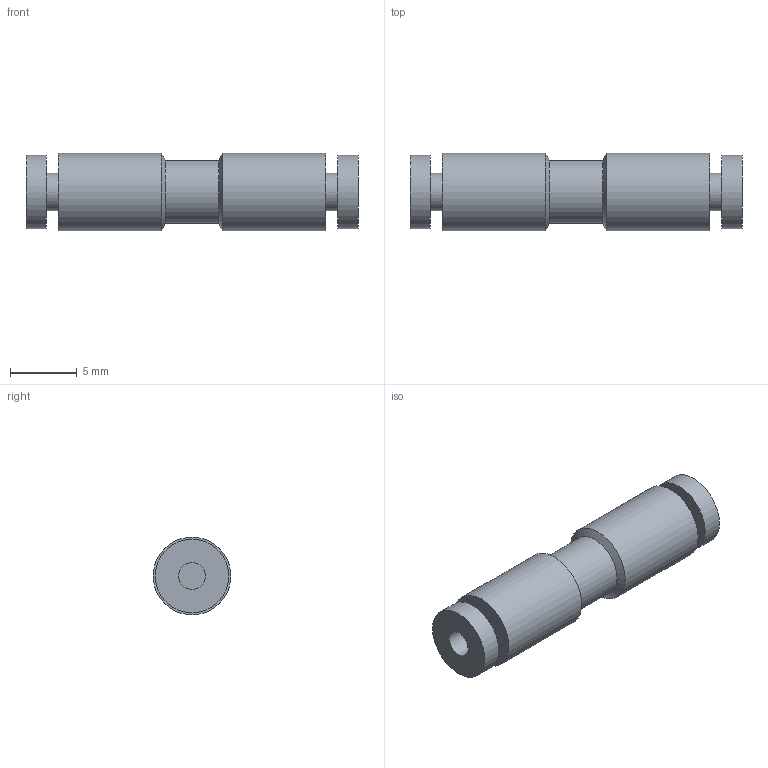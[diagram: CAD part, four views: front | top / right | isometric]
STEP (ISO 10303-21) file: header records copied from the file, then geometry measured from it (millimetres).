
FILE_DESCRIPTION(/* description */ ('STEP AP214'),/* implementation_level */ '2;1');
FILE_NAME(/* name */ 'KQ2H02-00A',/* time_stamp */ '2023-03-09T07:21:10+01:00',/* author */ ('License CC BY-ND 4.0'),/* organization */ ('CADENAS'),/* preprocessor_version */ 'ST-DEVELOPER v18.102',/* originating_system */ 'PARTsolutions',/* authorisation */ ' ');
FILE_SCHEMA (('AUTOMOTIVE_DESIGN {1 0 10303 214 3 1 1}'));
Length unit declared in the file: millimetre
Products named in the file (1): KQ2H02-00A
Bounding box: 24.8 x 5.8 x 5.8 mm (x, y, z)
Volume: 497.1 mm3; surface area: 700.6 mm2
Topology: 1 solids, 1 shells, 19 faces, 29 edges, 18 vertices
Faces by surface type: cylinder 9, plane 8, cone 2
Full cylindrical faces by diameter (mm): 2 x2, 2.8 x2, 4.7 x1, 5.5 x2, 5.8 x2
Entity records: 404 total; most frequent: DIRECTION 76, CARTESIAN_POINT 56, AXIS2_PLACEMENT_3D 38, ORIENTED_EDGE 36, EDGE_LOOP 36, FACE_BOUND 36, ADVANCED_FACE 19, EDGE_CURVE 18
